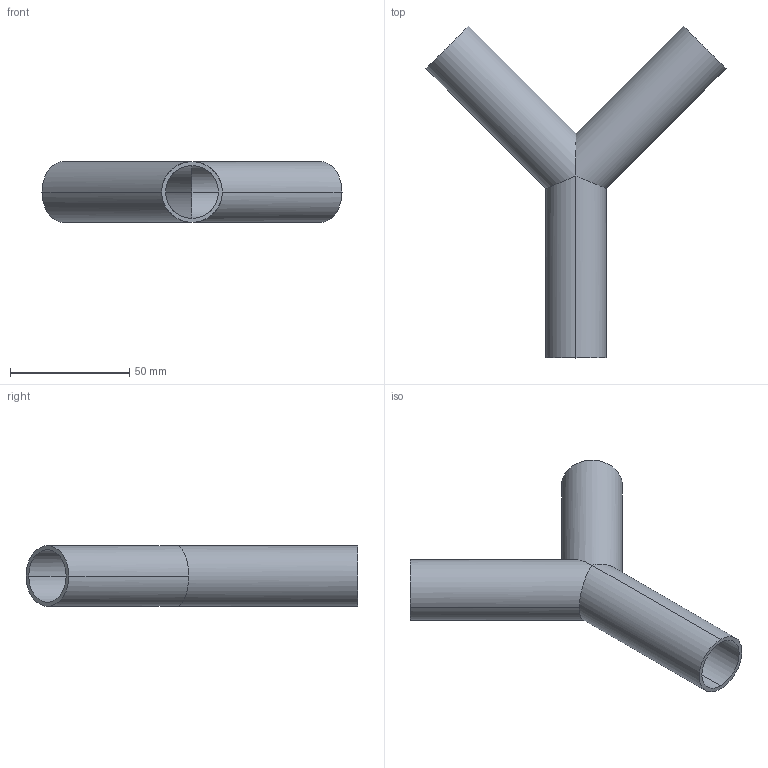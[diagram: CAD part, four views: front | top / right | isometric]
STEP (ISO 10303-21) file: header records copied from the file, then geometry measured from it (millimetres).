
FILE_DESCRIPTION (( 'STEP AP214' ), '1' );
FILE_NAME ('TE28WB6L1.0-...STEP', '2016-05-25T04:28:49', ( 'eran' ), ( '' ), 'SwSTEP 2.0', 'SolidWorks 2016', '' );
FILE_SCHEMA (( 'AUTOMOTIVE_DESIGN' ));
Length unit declared in the file: millimetre
Products named in the file (1): TE28WB6L1.0-..
Bounding box: 125.72 x 139.06 x 25.4 mm (x, y, z)
Volume: 26438.8 mm3; surface area: 32409.7 mm2
Topology: 1 solids, 1 shells, 15 faces, 36 edges, 22 vertices
Faces by surface type: cylinder 12, plane 3
Entity records: 476 total; most frequent: CARTESIAN_POINT 110, ORIENTED_EDGE 72, DIRECTION 68, EDGE_CURVE 36, AXIS2_PLACEMENT_3D 28, VERTEX_POINT 22, EDGE_LOOP 18, FACE_OUTER_BOUND 15
